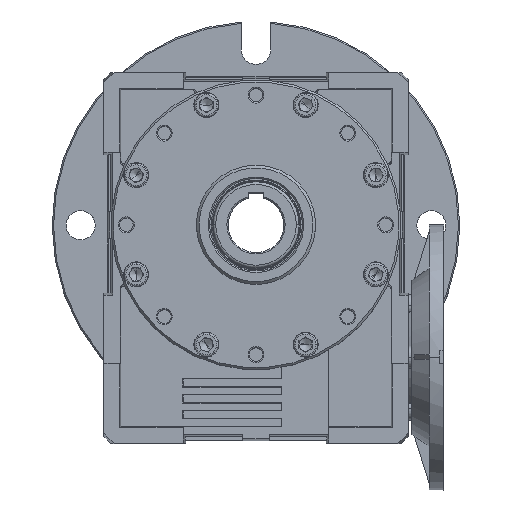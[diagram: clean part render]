
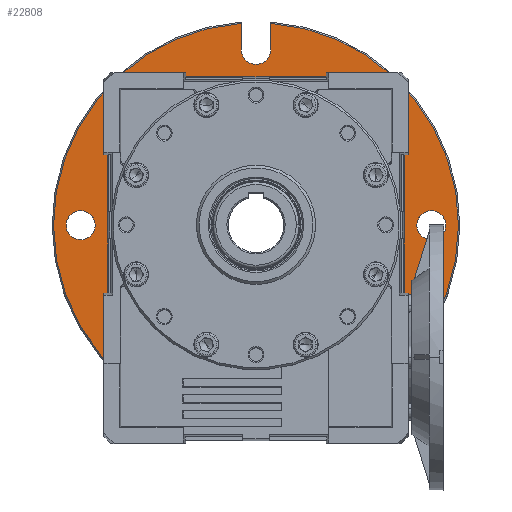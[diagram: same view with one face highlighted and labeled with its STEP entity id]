
A CAD part, top view. The second image highlights one B-rep face of the part: STEP entity #22808.
In plain terms, the highlighted planar face has unit normal (0, 0, 1).
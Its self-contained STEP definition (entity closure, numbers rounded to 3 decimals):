
#180 = DIRECTION ( 'NONE',  ( -1., 0., 0. ) ) ;
#561 = PLANE ( 'NONE',  #34618 ) ;
#2134 = ORIENTED_EDGE ( 'NONE', *, *, #23827, .T. ) ;
#2806 = EDGE_CURVE ( 'NONE', #49127, #21423, #20782, .T. ) ;
#4495 = EDGE_LOOP ( 'NONE', ( #8010, #21972 ) ) ;
#5009 = FACE_BOUND ( 'NONE', #6669, .T. ) ;
#5312 = FACE_BOUND ( 'NONE', #44332, .T. ) ;
#5599 = DIRECTION ( 'NONE',  ( 0., 0., 1. ) ) ;
#5715 = DIRECTION ( 'NONE',  ( 0., 0., 1. ) ) ;
#5840 = DIRECTION ( 'NONE',  ( 1., 0., 0. ) ) ;
#6669 = EDGE_LOOP ( 'NONE', ( #45350, #29524 ) ) ;
#7004 = CARTESIAN_POINT ( 'NONE',  ( 11., 109.5, -106. ) ) ;
#7342 = CIRCLE ( 'NONE', #21582, 11. ) ;
#7731 = CARTESIAN_POINT ( 'NONE',  ( -11., 109.5, -106. ) ) ;
#8010 = ORIENTED_EDGE ( 'NONE', *, *, #31073, .T. ) ;
#8144 = DIRECTION ( 'NONE',  ( 0., 0., -1. ) ) ;
#8638 = EDGE_CURVE ( 'NONE', #21423, #42144, #24446, .T. ) ;
#8867 = DIRECTION ( 'NONE',  ( -1., 0., 0. ) ) ;
#9497 = CARTESIAN_POINT ( 'NONE',  ( -121.5, 0., -106. ) ) ;
#9807 = VERTEX_POINT ( 'NONE', #12214 ) ;
#10223 = CARTESIAN_POINT ( 'NONE',  ( 0., 0., -106. ) ) ;
#10432 = AXIS2_PLACEMENT_3D ( 'NONE', #29239, #5715, #28936 ) ;
#11159 = DIRECTION ( 'NONE',  ( 0., 0., -1. ) ) ;
#11190 = LINE ( 'NONE', #7004, #42442 ) ;
#11608 = CARTESIAN_POINT ( 'NONE',  ( 0., 132.5, -106. ) ) ;
#12039 = EDGE_CURVE ( 'NONE', #14426, #9807, #26228, .T. ) ;
#12214 = CARTESIAN_POINT ( 'NONE',  ( -109.5, 0., -106. ) ) ;
#12473 = AXIS2_PLACEMENT_3D ( 'NONE', #31079, #8144, #42824 ) ;
#12517 = CARTESIAN_POINT ( 'NONE',  ( -11., -132.5, -106. ) ) ;
#12751 = VERTEX_POINT ( 'NONE', #9497 ) ;
#12862 = AXIS2_PLACEMENT_3D ( 'NONE', #36575, #18081, #8867 ) ;
#13158 = CARTESIAN_POINT ( 'NONE',  ( -153., 0., -106. ) ) ;
#14426 = VERTEX_POINT ( 'NONE', #24296 ) ;
#16317 = CIRCLE ( 'NONE', #23951, 11. ) ;
#16346 = DIRECTION ( 'NONE',  ( 0., 0., -1. ) ) ;
#16941 = DIRECTION ( 'NONE',  ( 0., 1., 0. ) ) ;
#16949 = EDGE_CURVE ( 'NONE', #36118, #19716, #22383, .T. ) ;
#17241 = LINE ( 'NONE', #7731, #53884 ) ;
#17759 = DIRECTION ( 'NONE',  ( 0., 0., -1. ) ) ;
#18081 = DIRECTION ( 'NONE',  ( 0., 0., -1. ) ) ;
#19716 = VERTEX_POINT ( 'NONE', #12517 ) ;
#20782 = CIRCLE ( 'NONE', #54098, 153. ) ;
#21423 = VERTEX_POINT ( 'NONE', #57752 ) ;
#21582 = AXIS2_PLACEMENT_3D ( 'NONE', #44918, #17759, #27905 ) ;
#21726 = DIRECTION ( 'NONE',  ( -1., 0., 0. ) ) ;
#21972 = ORIENTED_EDGE ( 'NONE', *, *, #16949, .T. ) ;
#22192 = DIRECTION ( 'NONE',  ( 0., 0., -1. ) ) ;
#22375 = CIRCLE ( 'NONE', #40458, 11. ) ;
#22383 = CIRCLE ( 'NONE', #12862, 11. ) ;
#22808 = ADVANCED_FACE ( 'NONE', ( #27950, #22875, #5312, #54470, #5009 ), #561, .F. ) ;
#22875 = FACE_BOUND ( 'NONE', #4495, .T. ) ;
#23467 = CARTESIAN_POINT ( 'NONE',  ( 0., 109.5, -106. ) ) ;
#23827 = EDGE_CURVE ( 'NONE', #50393, #37125, #22375, .T. ) ;
#23951 = AXIS2_PLACEMENT_3D ( 'NONE', #36224, #22192, #180 ) ;
#24261 = CARTESIAN_POINT ( 'NONE',  ( 132.5, 0., -106. ) ) ;
#24296 = CARTESIAN_POINT ( 'NONE',  ( 109.5, 0., -106. ) ) ;
#24446 = CIRCLE ( 'NONE', #32070, 153. ) ;
#24973 = ORIENTED_EDGE ( 'NONE', *, *, #39722, .T. ) ;
#25297 = DIRECTION ( 'NONE',  ( -1., 0., 0. ) ) ;
#25564 = ORIENTED_EDGE ( 'NONE', *, *, #35187, .T. ) ;
#25566 = EDGE_CURVE ( 'NONE', #12751, #53860, #7342, .T. ) ;
#26228 = CIRCLE ( 'NONE', #55742, 109.5 ) ;
#27580 = CARTESIAN_POINT ( 'NONE',  ( -143.5, 0., -106. ) ) ;
#27905 = DIRECTION ( 'NONE',  ( -1., 0., 0. ) ) ;
#27950 = FACE_BOUND ( 'NONE', #41222, .T. ) ;
#28188 = DIRECTION ( 'NONE',  ( 0., 0., 1. ) ) ;
#28533 = DIRECTION ( 'NONE',  ( -1., 0., 0. ) ) ;
#28936 = DIRECTION ( 'NONE',  ( -1., 0., 0. ) ) ;
#29239 = CARTESIAN_POINT ( 'NONE',  ( 0., 0., -106. ) ) ;
#29524 = ORIENTED_EDGE ( 'NONE', *, *, #36676, .F. ) ;
#30098 = DIRECTION ( 'NONE',  ( 0., 0., 1. ) ) ;
#30387 = DIRECTION ( 'NONE',  ( -1., 0., 0. ) ) ;
#30416 = ORIENTED_EDGE ( 'NONE', *, *, #53917, .T. ) ;
#30574 = CIRCLE ( 'NONE', #12473, 11. ) ;
#30695 = CIRCLE ( 'NONE', #34517, 11. ) ;
#30854 = ORIENTED_EDGE ( 'NONE', *, *, #25566, .T. ) ;
#31058 = AXIS2_PLACEMENT_3D ( 'NONE', #47946, #16346, #25297 ) ;
#31073 = EDGE_CURVE ( 'NONE', #19716, #36118, #16317, .T. ) ;
#31079 = CARTESIAN_POINT ( 'NONE',  ( 132.5, 0., -106. ) ) ;
#32070 = AXIS2_PLACEMENT_3D ( 'NONE', #48567, #30098, #21726 ) ;
#32641 = DIRECTION ( 'NONE',  ( -1., 0., 0. ) ) ;
#32733 = CARTESIAN_POINT ( 'NONE',  ( 11., -132.5, -106. ) ) ;
#33063 = ORIENTED_EDGE ( 'NONE', *, *, #2806, .T. ) ;
#33307 = EDGE_LOOP ( 'NONE', ( #24973, #33063, #57969, #42317, #2134, #55677 ) ) ;
#33748 = DIRECTION ( 'NONE',  ( 1., 0., 0. ) ) ;
#33798 = CARTESIAN_POINT ( 'NONE',  ( 121.5, 0., -106. ) ) ;
#34517 = AXIS2_PLACEMENT_3D ( 'NONE', #24261, #11159, #32641 ) ;
#34618 = AXIS2_PLACEMENT_3D ( 'NONE', #23467, #36596, #55349 ) ;
#35187 = EDGE_CURVE ( 'NONE', #53860, #12751, #51986, .T. ) ;
#35209 = EDGE_CURVE ( 'NONE', #37125, #40948, #17241, .T. ) ;
#36118 = VERTEX_POINT ( 'NONE', #32733 ) ;
#36224 = CARTESIAN_POINT ( 'NONE',  ( 0., -132.5, -106. ) ) ;
#36575 = CARTESIAN_POINT ( 'NONE',  ( 0., -132.5, -106. ) ) ;
#36596 = DIRECTION ( 'NONE',  ( 0., 0., -1. ) ) ;
#36676 = EDGE_CURVE ( 'NONE', #9807, #14426, #51045, .T. ) ;
#37125 = VERTEX_POINT ( 'NONE', #51644 ) ;
#38304 = DIRECTION ( 'NONE',  ( 0., -1., 0. ) ) ;
#39722 = EDGE_CURVE ( 'NONE', #40948, #49127, #49430, .T. ) ;
#40458 = AXIS2_PLACEMENT_3D ( 'NONE', #11608, #53603, #30387 ) ;
#40948 = VERTEX_POINT ( 'NONE', #56754 ) ;
#41222 = EDGE_LOOP ( 'NONE', ( #30416, #58207 ) ) ;
#42144 = VERTEX_POINT ( 'NONE', #46602 ) ;
#42317 = ORIENTED_EDGE ( 'NONE', *, *, #46301, .T. ) ;
#42442 = VECTOR ( 'NONE', #38304, 1000. ) ;
#42659 = VERTEX_POINT ( 'NONE', #47009 ) ;
#42800 = CARTESIAN_POINT ( 'NONE',  ( 0., 0., -106. ) ) ;
#42824 = DIRECTION ( 'NONE',  ( -1., 0., 0. ) ) ;
#44332 = EDGE_LOOP ( 'NONE', ( #25564, #30854 ) ) ;
#44918 = CARTESIAN_POINT ( 'NONE',  ( -132.5, 0., -106. ) ) ;
#45350 = ORIENTED_EDGE ( 'NONE', *, *, #12039, .F. ) ;
#45362 = CARTESIAN_POINT ( 'NONE',  ( 11., 132.5, -106. ) ) ;
#46301 = EDGE_CURVE ( 'NONE', #42144, #50393, #11190, .T. ) ;
#46420 = CARTESIAN_POINT ( 'NONE',  ( 0., 0., -106. ) ) ;
#46602 = CARTESIAN_POINT ( 'NONE',  ( 11., 152.604, -106. ) ) ;
#47009 = CARTESIAN_POINT ( 'NONE',  ( 143.5, 0., -106. ) ) ;
#47154 = DIRECTION ( 'NONE',  ( 0., 0., 1. ) ) ;
#47946 = CARTESIAN_POINT ( 'NONE',  ( -132.5, 0., -106. ) ) ;
#48567 = CARTESIAN_POINT ( 'NONE',  ( 0., 0., -106. ) ) ;
#49127 = VERTEX_POINT ( 'NONE', #13158 ) ;
#49430 = CIRCLE ( 'NONE', #10432, 153. ) ;
#50393 = VERTEX_POINT ( 'NONE', #45362 ) ;
#51045 = CIRCLE ( 'NONE', #54826, 109.5 ) ;
#51644 = CARTESIAN_POINT ( 'NONE',  ( -11., 132.5, -106. ) ) ;
#51783 = EDGE_CURVE ( 'NONE', #42659, #56434, #30574, .T. ) ;
#51986 = CIRCLE ( 'NONE', #31058, 11. ) ;
#53603 = DIRECTION ( 'NONE',  ( 0., 0., -1. ) ) ;
#53860 = VERTEX_POINT ( 'NONE', #27580 ) ;
#53884 = VECTOR ( 'NONE', #16941, 1000. ) ;
#53917 = EDGE_CURVE ( 'NONE', #56434, #42659, #30695, .T. ) ;
#54098 = AXIS2_PLACEMENT_3D ( 'NONE', #46420, #5599, #28533 ) ;
#54470 = FACE_OUTER_BOUND ( 'NONE', #33307, .T. ) ;
#54826 = AXIS2_PLACEMENT_3D ( 'NONE', #42800, #28188, #5840 ) ;
#55349 = DIRECTION ( 'NONE',  ( -1., 0., 0. ) ) ;
#55677 = ORIENTED_EDGE ( 'NONE', *, *, #35209, .T. ) ;
#55742 = AXIS2_PLACEMENT_3D ( 'NONE', #10223, #47154, #33748 ) ;
#56434 = VERTEX_POINT ( 'NONE', #33798 ) ;
#56754 = CARTESIAN_POINT ( 'NONE',  ( -11., 152.604, -106. ) ) ;
#57752 = CARTESIAN_POINT ( 'NONE',  ( 153., 0., -106. ) ) ;
#57969 = ORIENTED_EDGE ( 'NONE', *, *, #8638, .T. ) ;
#58207 = ORIENTED_EDGE ( 'NONE', *, *, #51783, .T. ) ;
